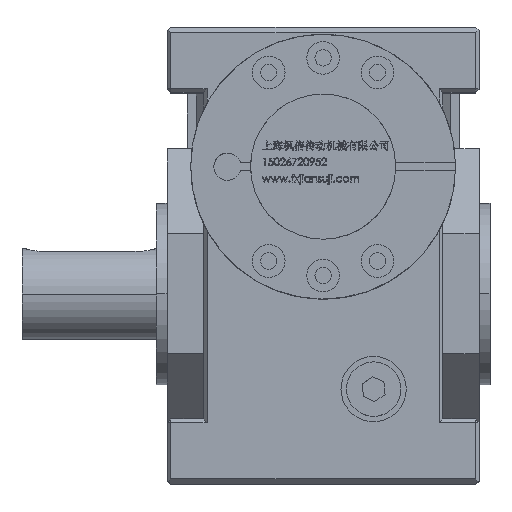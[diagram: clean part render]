
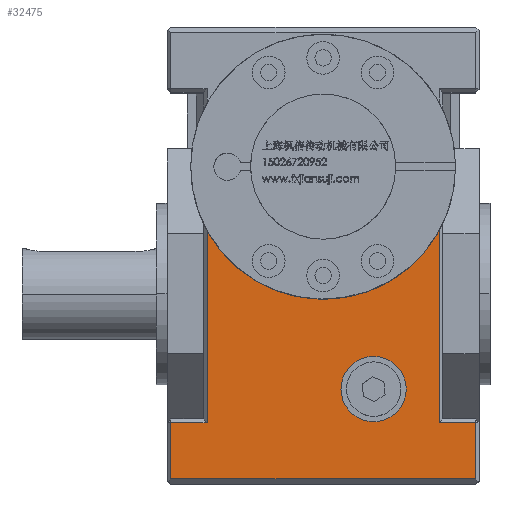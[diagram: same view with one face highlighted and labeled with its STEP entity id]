
A CAD part, top view. The second image highlights one B-rep face of the part: STEP entity #32475.
In plain terms, the highlighted planar face has unit normal (0, 0, 1).
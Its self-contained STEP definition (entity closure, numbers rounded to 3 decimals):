
#467 = CARTESIAN_POINT ( 'NONE',  ( -43., -35.5, 52. ) ) ;
#688 = CARTESIAN_POINT ( 'NONE',  ( 0., 35., 52. ) ) ;
#1467 = LINE ( 'NONE', #45937, #8567 ) ;
#1760 = EDGE_CURVE ( 'NONE', #67464, #45078, #47441, .T. ) ;
#2149 = VECTOR ( 'NONE', #23016, 1000. ) ;
#2982 = CARTESIAN_POINT ( 'NONE',  ( 42., -51., 52. ) ) ;
#3924 = EDGE_CURVE ( 'NONE', #69237, #28321, #39374, .T. ) ;
#4292 = CARTESIAN_POINT ( 'NONE',  ( -32., -35.5, 52. ) ) ;
#4467 = CARTESIAN_POINT ( 'NONE',  ( 42., -35.5, 52. ) ) ;
#5795 = EDGE_LOOP ( 'NONE', ( #48918, #50955 ) ) ;
#6571 = VERTEX_POINT ( 'NONE', #41893 ) ;
#7031 = LINE ( 'NONE', #44858, #2149 ) ;
#7941 = DIRECTION ( 'NONE',  ( 0., -1., 0. ) ) ;
#8344 = ORIENTED_EDGE ( 'NONE', *, *, #8637, .T. ) ;
#8567 = VECTOR ( 'NONE', #62996, 1000. ) ;
#8637 = EDGE_CURVE ( 'NONE', #28321, #58950, #10858, .T. ) ;
#9531 = DIRECTION ( 'NONE',  ( -1., 0., 0. ) ) ;
#9911 = LINE ( 'NONE', #25111, #60553 ) ;
#10120 = EDGE_CURVE ( 'NONE', #14475, #37687, #9911, .T. ) ;
#10493 = AXIS2_PLACEMENT_3D ( 'NONE', #688, #28864, #67387 ) ;
#10614 = VECTOR ( 'NONE', #7941, 1000. ) ;
#10858 = LINE ( 'NONE', #62343, #28831 ) ;
#11658 = DIRECTION ( 'NONE',  ( 0., 0., 1. ) ) ;
#11755 = CARTESIAN_POINT ( 'NONE',  ( 13.928, -26.28, 52. ) ) ;
#12464 = EDGE_CURVE ( 'NONE', #38747, #69237, #50117, .T. ) ;
#13064 = CARTESIAN_POINT ( 'NONE',  ( 32., 17.443, 52. ) ) ;
#13615 = CIRCLE ( 'NONE', #64494, 9. ) ;
#14475 = VERTEX_POINT ( 'NONE', #4467 ) ;
#14788 = FACE_OUTER_BOUND ( 'NONE', #28571, .T. ) ;
#15523 = CARTESIAN_POINT ( 'NONE',  ( 43., 73.5, 52. ) ) ;
#15539 = AXIS2_PLACEMENT_3D ( 'NONE', #62791, #11658, #34261 ) ;
#19634 = EDGE_CURVE ( 'NONE', #58950, #14475, #1467, .T. ) ;
#23016 = DIRECTION ( 'NONE',  ( 0., 1., 0. ) ) ;
#25012 = CARTESIAN_POINT ( 'NONE',  ( 4.928, -26.28, 52. ) ) ;
#25111 = CARTESIAN_POINT ( 'NONE',  ( 43., -35.5, 52. ) ) ;
#26606 = CARTESIAN_POINT ( 'NONE',  ( -42., -35.5, 52. ) ) ;
#26775 = ORIENTED_EDGE ( 'NONE', *, *, #53025, .T. ) ;
#27904 = DIRECTION ( 'NONE',  ( 1., 0., 0. ) ) ;
#28321 = VERTEX_POINT ( 'NONE', #42168 ) ;
#28571 = EDGE_LOOP ( 'NONE', ( #51345, #8344, #44215, #67532, #35071, #52842, #26775, #51379 ) ) ;
#28831 = VECTOR ( 'NONE', #27904, 1000. ) ;
#28864 = DIRECTION ( 'NONE',  ( 0., 0., 1. ) ) ;
#32475 = ADVANCED_FACE ( 'NONE', ( #14788, #55863 ), #49953, .F. ) ;
#34261 = DIRECTION ( 'NONE',  ( 1., 0., 0. ) ) ;
#35071 = ORIENTED_EDGE ( 'NONE', *, *, #50462, .T. ) ;
#37687 = VERTEX_POINT ( 'NONE', #50649 ) ;
#38747 = VERTEX_POINT ( 'NONE', #4292 ) ;
#38817 = DIRECTION ( 'NONE',  ( 0., 0., 1. ) ) ;
#39208 = VECTOR ( 'NONE', #68623, 1000. ) ;
#39374 = LINE ( 'NONE', #50832, #39208 ) ;
#41893 = CARTESIAN_POINT ( 'NONE',  ( -32., 17.443, 52. ) ) ;
#42168 = CARTESIAN_POINT ( 'NONE',  ( -42., -51., 52. ) ) ;
#42939 = DIRECTION ( 'NONE',  ( 0., 1., 0. ) ) ;
#44215 = ORIENTED_EDGE ( 'NONE', *, *, #19634, .T. ) ;
#44858 = CARTESIAN_POINT ( 'NONE',  ( 32., 19.404, 52. ) ) ;
#45078 = VERTEX_POINT ( 'NONE', #64418 ) ;
#45937 = CARTESIAN_POINT ( 'NONE',  ( 42., -34.5, 52. ) ) ;
#47202 = CARTESIAN_POINT ( 'NONE',  ( -32., -34.5, 52. ) ) ;
#47441 = CIRCLE ( 'NONE', #15539, 9. ) ;
#48918 = ORIENTED_EDGE ( 'NONE', *, *, #72535, .F. ) ;
#49224 = DIRECTION ( 'NONE',  ( 0., 0., -1. ) ) ;
#49953 = PLANE ( 'NONE',  #65958 ) ;
#50117 = LINE ( 'NONE', #467, #66964 ) ;
#50462 = EDGE_CURVE ( 'NONE', #37687, #54306, #7031, .T. ) ;
#50649 = CARTESIAN_POINT ( 'NONE',  ( 32., -35.5, 52. ) ) ;
#50832 = CARTESIAN_POINT ( 'NONE',  ( -42., 73.5, 52. ) ) ;
#50955 = ORIENTED_EDGE ( 'NONE', *, *, #1760, .F. ) ;
#51345 = ORIENTED_EDGE ( 'NONE', *, *, #3924, .T. ) ;
#51379 = ORIENTED_EDGE ( 'NONE', *, *, #12464, .T. ) ;
#52842 = ORIENTED_EDGE ( 'NONE', *, *, #60644, .F. ) ;
#53025 = EDGE_CURVE ( 'NONE', #6571, #38747, #58706, .T. ) ;
#54306 = VERTEX_POINT ( 'NONE', #13064 ) ;
#55863 = FACE_BOUND ( 'NONE', #5795, .T. ) ;
#58706 = LINE ( 'NONE', #47202, #10614 ) ;
#58950 = VERTEX_POINT ( 'NONE', #2982 ) ;
#60553 = VECTOR ( 'NONE', #9531, 1000. ) ;
#60644 = EDGE_CURVE ( 'NONE', #6571, #54306, #73157, .T. ) ;
#61223 = DIRECTION ( 'NONE',  ( -1., 0., 0. ) ) ;
#62343 = CARTESIAN_POINT ( 'NONE',  ( 43., -51., 52. ) ) ;
#62791 = CARTESIAN_POINT ( 'NONE',  ( 13.928, -26.28, 52. ) ) ;
#62996 = DIRECTION ( 'NONE',  ( 0., 1., 0. ) ) ;
#64418 = CARTESIAN_POINT ( 'NONE',  ( 22.928, -26.28, 52. ) ) ;
#64494 = AXIS2_PLACEMENT_3D ( 'NONE', #11755, #38817, #67003 ) ;
#65958 = AXIS2_PLACEMENT_3D ( 'NONE', #15523, #49224, #42939 ) ;
#66964 = VECTOR ( 'NONE', #61223, 1000. ) ;
#67003 = DIRECTION ( 'NONE',  ( 1., 0., 0. ) ) ;
#67387 = DIRECTION ( 'NONE',  ( 0., 1., 0. ) ) ;
#67464 = VERTEX_POINT ( 'NONE', #25012 ) ;
#67532 = ORIENTED_EDGE ( 'NONE', *, *, #10120, .T. ) ;
#68623 = DIRECTION ( 'NONE',  ( 0., -1., 0. ) ) ;
#69237 = VERTEX_POINT ( 'NONE', #26606 ) ;
#72535 = EDGE_CURVE ( 'NONE', #45078, #67464, #13615, .T. ) ;
#73157 = CIRCLE ( 'NONE', #10493, 36.5 ) ;
